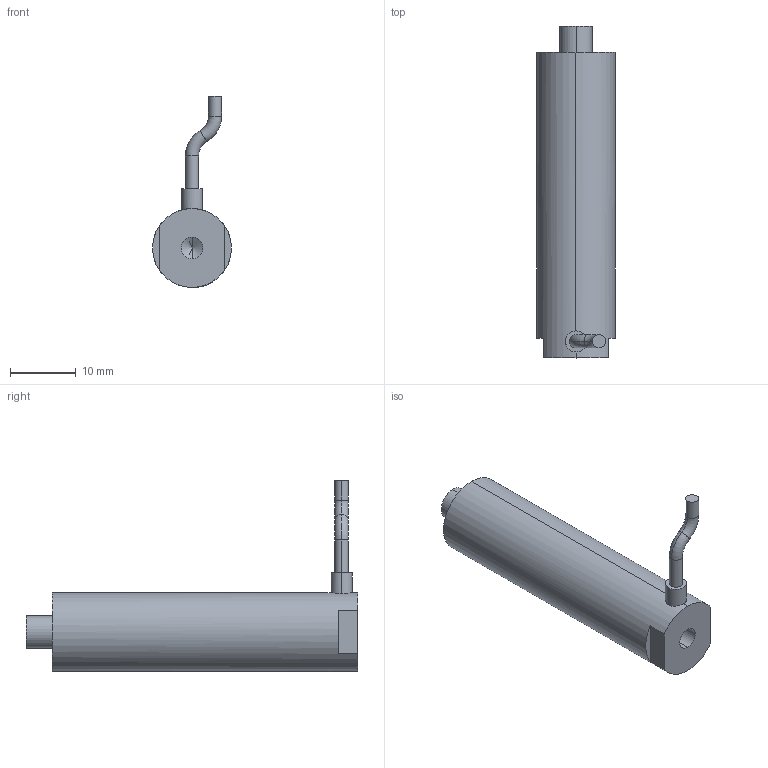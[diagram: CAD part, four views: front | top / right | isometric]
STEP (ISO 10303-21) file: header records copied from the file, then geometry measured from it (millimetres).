
FILE_DESCRIPTION (( 'STEP AP203' ), '1' );
FILE_NAME ('ƽͷʽ40VS12.STEP', '2020-08-19T06:07:49', ( 'User' ), ( 'china' ), 'SwSTEP 2.0', 'SolidWorks 2016', '' );
FILE_SCHEMA (( 'CONFIG_CONTROL_DESIGN' ));
Length unit declared in the file: millimetre
Products named in the file (1): ƽͷʽ40VS12
Bounding box: 12 x 50.5 x 29.08 mm (x, y, z)
Volume: 5328.5 mm3; surface area: 2235.9 mm2
Topology: 1 solids, 1 shells, 962 faces, 2648 edges, 1761 vertices
Faces by surface type: bspline 519, plane 313, cylinder 124, torus 4, cone 2
Entity records: 44922 total; most frequent: CARTESIAN_POINT 25118, ORIENTED_EDGE 5292, EDGE_CURVE 2646, DIRECTION 2057, B_SPLINE_CURVE_WITH_KNOTS 1767, VERTEX_POINT 1761, EDGE_LOOP 1037, FACE_OUTER_BOUND 962
